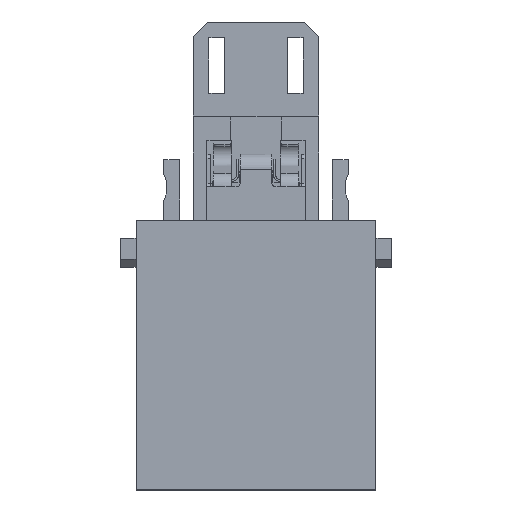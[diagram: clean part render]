
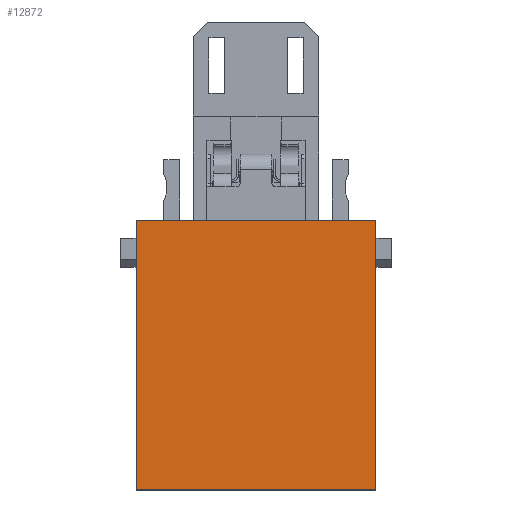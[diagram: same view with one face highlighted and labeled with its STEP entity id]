
A CAD part, top view. The second image highlights one B-rep face of the part: STEP entity #12872.
In plain terms, the highlighted planar face has unit normal (0, 0, 1).
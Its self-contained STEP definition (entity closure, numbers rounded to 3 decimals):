
#528 = VECTOR ( 'NONE', #20551, 1000. ) ;
#564 = VECTOR ( 'NONE', #10721, 1000. ) ;
#1035 = LINE ( 'NONE', #12727, #528 ) ;
#1233 = EDGE_CURVE ( 'NONE', #9715, #5231, #1035, .T. ) ;
#2195 = ORIENTED_EDGE ( 'NONE', *, *, #20664, .T. ) ;
#3192 = DIRECTION ( 'NONE',  ( 1., 0., 0. ) ) ;
#3605 = CARTESIAN_POINT ( 'NONE',  ( 15.15, 2.5, 7.325 ) ) ;
#4052 = CARTESIAN_POINT ( 'NONE',  ( -15.15, 2.5, 7.325 ) ) ;
#4566 = EDGE_CURVE ( 'NONE', #5231, #6121, #5747, .T. ) ;
#4805 = CARTESIAN_POINT ( 'NONE',  ( 15.15, 2.5, 7.325 ) ) ;
#5231 = VERTEX_POINT ( 'NONE', #4052 ) ;
#5453 = ORIENTED_EDGE ( 'NONE', *, *, #1233, .T. ) ;
#5747 = LINE ( 'NONE', #18211, #12115 ) ;
#6121 = VERTEX_POINT ( 'NONE', #12314 ) ;
#6473 = PLANE ( 'NONE',  #12039 ) ;
#6620 = CARTESIAN_POINT ( 'NONE',  ( 15.15, 2.5, 7.325 ) ) ;
#6703 = EDGE_CURVE ( 'NONE', #6121, #11515, #20122, .T. ) ;
#8901 = CARTESIAN_POINT ( 'NONE',  ( 15.15, -31.5, 7.325 ) ) ;
#9715 = VERTEX_POINT ( 'NONE', #4805 ) ;
#10353 = LINE ( 'NONE', #3605, #11892 ) ;
#10721 = DIRECTION ( 'NONE',  ( 1., 0., 0. ) ) ;
#11311 = DIRECTION ( 'NONE',  ( 0., 0., 1. ) ) ;
#11515 = VERTEX_POINT ( 'NONE', #8901 ) ;
#11589 = ORIENTED_EDGE ( 'NONE', *, *, #6703, .T. ) ;
#11892 = VECTOR ( 'NONE', #14994, 1000. ) ;
#12039 = AXIS2_PLACEMENT_3D ( 'NONE', #6620, #11311, #3192 ) ;
#12115 = VECTOR ( 'NONE', #16852, 1000. ) ;
#12314 = CARTESIAN_POINT ( 'NONE',  ( -15.15, -31.5, 7.325 ) ) ;
#12727 = CARTESIAN_POINT ( 'NONE',  ( 15.15, 2.5, 7.325 ) ) ;
#12872 = ADVANCED_FACE ( 'NONE', ( #18897 ), #6473, .T. ) ;
#14381 = EDGE_LOOP ( 'NONE', ( #11589, #2195, #5453, #16948 ) ) ;
#14994 = DIRECTION ( 'NONE',  ( 0., 1., 0. ) ) ;
#16852 = DIRECTION ( 'NONE',  ( 0., -1., 0. ) ) ;
#16948 = ORIENTED_EDGE ( 'NONE', *, *, #4566, .T. ) ;
#17368 = CARTESIAN_POINT ( 'NONE',  ( 15.15, -31.5, 7.325 ) ) ;
#18211 = CARTESIAN_POINT ( 'NONE',  ( -15.15, 2.5, 7.325 ) ) ;
#18897 = FACE_OUTER_BOUND ( 'NONE', #14381, .T. ) ;
#20122 = LINE ( 'NONE', #17368, #564 ) ;
#20551 = DIRECTION ( 'NONE',  ( -1., 0., 0. ) ) ;
#20664 = EDGE_CURVE ( 'NONE', #11515, #9715, #10353, .T. ) ;
